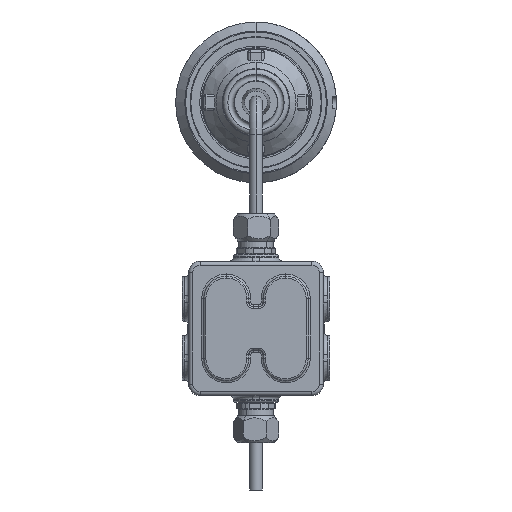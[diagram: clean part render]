
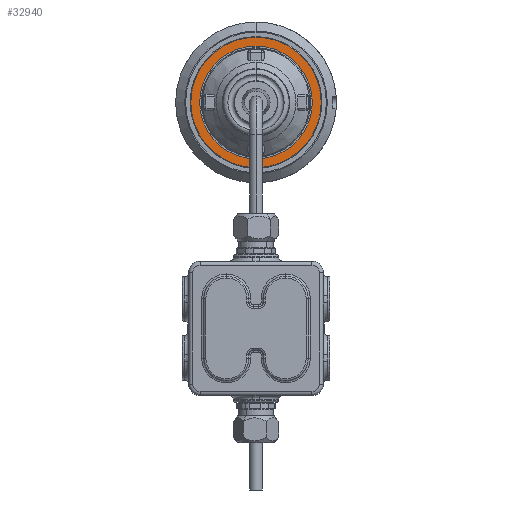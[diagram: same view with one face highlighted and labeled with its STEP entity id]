
A CAD part, front view. The second image highlights one B-rep face of the part: STEP entity #32940.
In plain terms, the highlighted planar face has unit normal (0, -1, 0).
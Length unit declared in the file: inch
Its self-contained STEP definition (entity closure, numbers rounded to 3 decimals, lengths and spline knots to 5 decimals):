
#559 = CARTESIAN_POINT ( 'NONE',  ( 0., 8.45, 0. ) ) ;
#1353 = CARTESIAN_POINT ( 'NONE',  ( 1.75, 8.45, 0. ) ) ;
#1732 = CIRCLE ( 'NONE', #7009, 1.75 ) ;
#1990 = DIRECTION ( 'NONE',  ( 0., -1., 0. ) ) ;
#3301 = DIRECTION ( 'NONE',  ( 0., 0., -1. ) ) ;
#4069 = EDGE_CURVE ( 'NONE', #7414, #35000, #32556, .T. ) ;
#4688 = EDGE_CURVE ( 'NONE', #15382, #8387, #17280, .T. ) ;
#4739 = FACE_BOUND ( 'NONE', #14392, .T. ) ;
#5455 = ORIENTED_EDGE ( 'NONE', *, *, #20726, .T. ) ;
#5818 = EDGE_LOOP ( 'NONE', ( #11668, #5455 ) ) ;
#6154 = EDGE_CURVE ( 'NONE', #8387, #15382, #1732, .T. ) ;
#7009 = AXIS2_PLACEMENT_3D ( 'NONE', #13181, #32120, #15907 ) ;
#7414 = VERTEX_POINT ( 'NONE', #35246 ) ;
#8387 = VERTEX_POINT ( 'NONE', #25620 ) ;
#11370 = DIRECTION ( 'NONE',  ( 0., -1., 0. ) ) ;
#11668 = ORIENTED_EDGE ( 'NONE', *, *, #4069, .T. ) ;
#13181 = CARTESIAN_POINT ( 'NONE',  ( 0., 8.45, 0. ) ) ;
#13624 = CIRCLE ( 'NONE', #15803, 2.025 ) ;
#14392 = EDGE_LOOP ( 'NONE', ( #22752, #29779 ) ) ;
#14819 = DIRECTION ( 'NONE',  ( 0., -1., 0. ) ) ;
#15382 = VERTEX_POINT ( 'NONE', #33019 ) ;
#15803 = AXIS2_PLACEMENT_3D ( 'NONE', #18268, #1990, #21000 ) ;
#15907 = DIRECTION ( 'NONE',  ( 0., 0., -1. ) ) ;
#17280 = CIRCLE ( 'NONE', #32393, 1.75 ) ;
#18268 = CARTESIAN_POINT ( 'NONE',  ( 0., 8.45, 0. ) ) ;
#19602 = DIRECTION ( 'NONE',  ( 0., -1., 0. ) ) ;
#20726 = EDGE_CURVE ( 'NONE', #35000, #7414, #13624, .T. ) ;
#21000 = DIRECTION ( 'NONE',  ( 0., 0., -1. ) ) ;
#21716 = CARTESIAN_POINT ( 'NONE',  ( 0., 8.45, -2.025 ) ) ;
#21758 = AXIS2_PLACEMENT_3D ( 'NONE', #27562, #11370, #30309 ) ;
#22752 = ORIENTED_EDGE ( 'NONE', *, *, #6154, .F. ) ;
#23099 = PLANE ( 'NONE',  #25427 ) ;
#25427 = AXIS2_PLACEMENT_3D ( 'NONE', #1353, #14819, #25813 ) ;
#25620 = CARTESIAN_POINT ( 'NONE',  ( 0., 8.45, -1.75 ) ) ;
#25813 = DIRECTION ( 'NONE',  ( 0., 0., -1. ) ) ;
#27562 = CARTESIAN_POINT ( 'NONE',  ( 0., 8.45, 0. ) ) ;
#29779 = ORIENTED_EDGE ( 'NONE', *, *, #4688, .F. ) ;
#30309 = DIRECTION ( 'NONE',  ( 0., 0., -1. ) ) ;
#32120 = DIRECTION ( 'NONE',  ( 0., -1., 0. ) ) ;
#32393 = AXIS2_PLACEMENT_3D ( 'NONE', #559, #19602, #3301 ) ;
#32556 = CIRCLE ( 'NONE', #21758, 2.025 ) ;
#32940 = ADVANCED_FACE ( 'NONE', ( #33630, #4739 ), #23099, .T. ) ;
#33019 = CARTESIAN_POINT ( 'NONE',  ( 0., 8.45, 1.75 ) ) ;
#33630 = FACE_OUTER_BOUND ( 'NONE', #5818, .T. ) ;
#35000 = VERTEX_POINT ( 'NONE', #21716 ) ;
#35246 = CARTESIAN_POINT ( 'NONE',  ( 0., 8.45, 2.025 ) ) ;
